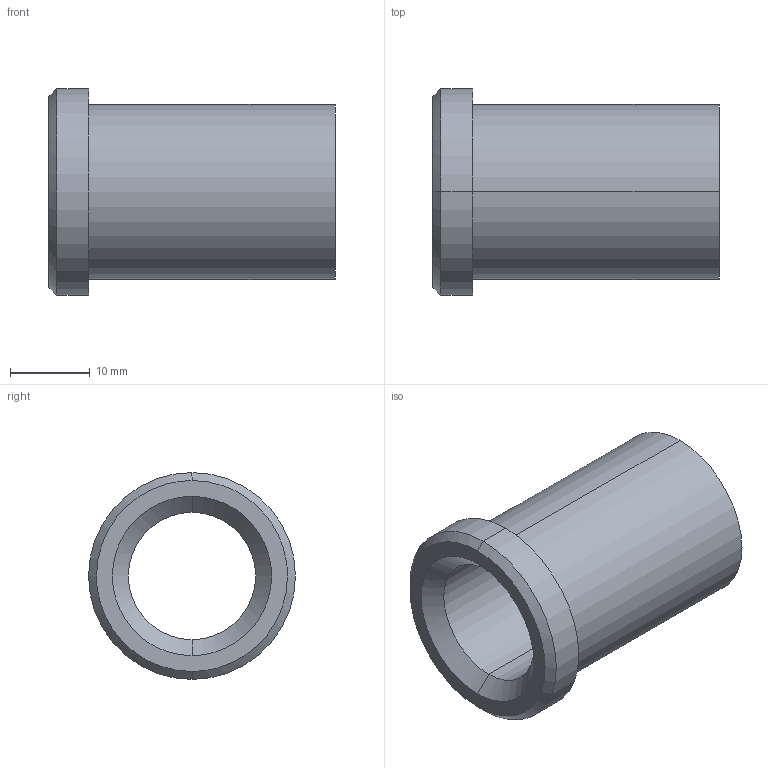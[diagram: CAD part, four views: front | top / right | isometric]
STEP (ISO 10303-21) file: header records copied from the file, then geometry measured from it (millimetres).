
FILE_DESCRIPTION(('CATIA V5 STEP Exchange'),'2;1');
FILE_NAME('C:\Users\Utente\Desktop\IO LAVORO\3D X SITO CF\X SITO\PLASTICA\353\353-16X36.stp','2021-05-04T18:18:41+00:00',('none'),('none'),'CATIA Version 5 Release 20 GA (IN-10)','CATIA V5 STEP AP203','none');
FILE_SCHEMA(('CONFIG_CONTROL_DESIGN'));
Length unit declared in the file: millimetre
Products named in the file (1): 353-16X36
Bounding box: 36 x 26 x 26 mm (x, y, z)
Volume: 7040.7 mm3; surface area: 4896.3 mm2
Topology: 1 solids, 1 shells, 15 faces, 48 edges, 36 vertices
Faces by surface type: cylinder 6, cone 4, plane 3, torus 2
Entity records: 680 total; most frequent: CARTESIAN_POINT 212, ORIENTED_EDGE 96, DIRECTION 70, EDGE_CURVE 48, AXIS2_PLACEMENT_3D 46, VERTEX_POINT 36, CIRCLE 30, EDGE_LOOP 18
